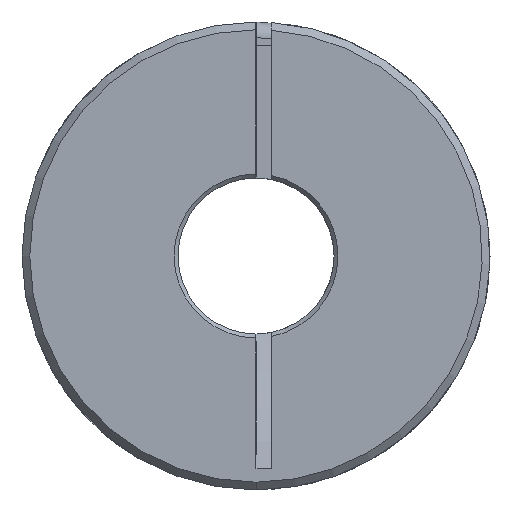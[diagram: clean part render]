
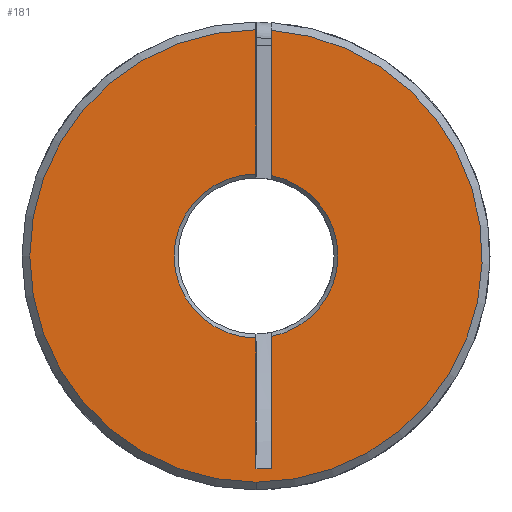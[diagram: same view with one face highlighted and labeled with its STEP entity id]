
A CAD part, left-side view. The second image highlights one B-rep face of the part: STEP entity #181.
In plain terms, the highlighted planar face has unit normal (-1, 0, 0) as drawn and (0, 0, 1) by its records, which use the part's own axes.
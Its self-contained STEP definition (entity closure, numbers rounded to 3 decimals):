
#54 = AXIS2_PLACEMENT_3D ( 'NONE', #1864, #4016, #2174 ) ;
#56 = AXIS2_PLACEMENT_3D ( 'NONE', #102, #2330, #420 ) ;
#87 = DIRECTION ( 'NONE',  ( 1., 0., 0. ) ) ;
#102 = CARTESIAN_POINT ( 'NONE',  ( 0., 0., 6. ) ) ;
#107 = VERTEX_POINT ( 'NONE', #920 ) ;
#129 = ORIENTED_EDGE ( 'NONE', *, *, #787, .T. ) ;
#147 = ORIENTED_EDGE ( 'NONE', *, *, #3875, .F. ) ;
#181 = ADVANCED_FACE ( 'NONE', ( #912 ), #2145, .T. ) ;
#195 = DIRECTION ( 'NONE',  ( 0., -1., 0. ) ) ;
#217 = ORIENTED_EDGE ( 'NONE', *, *, #3099, .T. ) ;
#386 = LINE ( 'NONE', #3314, #3719 ) ;
#414 = ORIENTED_EDGE ( 'NONE', *, *, #3468, .T. ) ;
#420 = DIRECTION ( 'NONE',  ( 1., 0., 0. ) ) ;
#466 = DIRECTION ( 'NONE',  ( -1., 0., 0. ) ) ;
#566 = DIRECTION ( 'NONE',  ( 0., 0., 1. ) ) ;
#677 = CARTESIAN_POINT ( 'NONE',  ( 0., 0., 6. ) ) ;
#766 = VECTOR ( 'NONE', #2548, 1000. ) ;
#787 = EDGE_CURVE ( 'NONE', #1925, #3376, #2627, .T. ) ;
#912 = FACE_OUTER_BOUND ( 'NONE', #955, .T. ) ;
#920 = CARTESIAN_POINT ( 'NONE',  ( 14.465, -1., 6. ) ) ;
#941 = DIRECTION ( 'NONE',  ( 0., 0., 1. ) ) ;
#955 = EDGE_LOOP ( 'NONE', ( #1781, #217, #1842, #3928, #147, #2085, #1674, #129, #414 ) ) ;
#1148 = CARTESIAN_POINT ( 'NONE',  ( -13.642, -1., 6. ) ) ;
#1154 = EDGE_CURVE ( 'NONE', #1925, #3234, #3873, .T. ) ;
#1213 = VERTEX_POINT ( 'NONE', #3210 ) ;
#1319 = CARTESIAN_POINT ( 'NONE',  ( -13.642, -1., 6. ) ) ;
#1378 = EDGE_CURVE ( 'NONE', #2116, #3897, #2078, .T. ) ;
#1408 = CARTESIAN_POINT ( 'NONE',  ( 5.25, 0., 6. ) ) ;
#1494 = CARTESIAN_POINT ( 'NONE',  ( -5.154, -1., 6. ) ) ;
#1610 = VECTOR ( 'NONE', #466, 1000. ) ;
#1674 = ORIENTED_EDGE ( 'NONE', *, *, #1154, .F. ) ;
#1690 = DIRECTION ( 'NONE',  ( -1., 0., 0. ) ) ;
#1781 = ORIENTED_EDGE ( 'NONE', *, *, #3998, .T. ) ;
#1835 = DIRECTION ( 'NONE',  ( 1., 0., 0. ) ) ;
#1842 = ORIENTED_EDGE ( 'NONE', *, *, #3605, .T. ) ;
#1864 = CARTESIAN_POINT ( 'NONE',  ( 0., 0., 6. ) ) ;
#1925 = VERTEX_POINT ( 'NONE', #2119 ) ;
#1933 = VERTEX_POINT ( 'NONE', #1494 ) ;
#1981 = CARTESIAN_POINT ( 'NONE',  ( 5.154, -1., 6. ) ) ;
#1991 = DIRECTION ( 'NONE',  ( 0., 0., 1. ) ) ;
#2073 = EDGE_CURVE ( 'NONE', #1213, #3234, #2700, .T. ) ;
#2078 = LINE ( 'NONE', #1148, #3623 ) ;
#2085 = ORIENTED_EDGE ( 'NONE', *, *, #2073, .T. ) ;
#2116 = VERTEX_POINT ( 'NONE', #3755 ) ;
#2119 = CARTESIAN_POINT ( 'NONE',  ( 14.5, 0., 6. ) ) ;
#2145 = PLANE ( 'NONE',  #3275 ) ;
#2174 = DIRECTION ( 'NONE',  ( 1., 0., 0. ) ) ;
#2237 = CARTESIAN_POINT ( 'NONE',  ( 0., 0., 6. ) ) ;
#2330 = DIRECTION ( 'NONE',  ( 0., 0., -1. ) ) ;
#2449 = LINE ( 'NONE', #2237, #766 ) ;
#2456 = AXIS2_PLACEMENT_3D ( 'NONE', #2810, #941, #3127 ) ;
#2514 = VERTEX_POINT ( 'NONE', #1981 ) ;
#2548 = DIRECTION ( 'NONE',  ( -1., 0., 0. ) ) ;
#2627 = CIRCLE ( 'NONE', #3638, 14.5 ) ;
#2700 = CIRCLE ( 'NONE', #54, 5.25 ) ;
#2810 = CARTESIAN_POINT ( 'NONE',  ( 0., 0., 6. ) ) ;
#2864 = DIRECTION ( 'NONE',  ( -1., 0., 0. ) ) ;
#2946 = CIRCLE ( 'NONE', #2456, 14.5 ) ;
#2982 = CARTESIAN_POINT ( 'NONE',  ( 0., -1., 6. ) ) ;
#3062 = VECTOR ( 'NONE', #2864, 1000. ) ;
#3099 = EDGE_CURVE ( 'NONE', #2514, #1933, #3768, .T. ) ;
#3127 = DIRECTION ( 'NONE',  ( 1., 0., 0. ) ) ;
#3210 = CARTESIAN_POINT ( 'NONE',  ( -5.25, 0., 6. ) ) ;
#3234 = VERTEX_POINT ( 'NONE', #1408 ) ;
#3261 = LINE ( 'NONE', #2982, #1610 ) ;
#3275 = AXIS2_PLACEMENT_3D ( 'NONE', #3383, #566, #1835 ) ;
#3314 = CARTESIAN_POINT ( 'NONE',  ( 0., -1., 6. ) ) ;
#3376 = VERTEX_POINT ( 'NONE', #3997 ) ;
#3383 = CARTESIAN_POINT ( 'NONE',  ( 0., 0., 6. ) ) ;
#3468 = EDGE_CURVE ( 'NONE', #3376, #107, #2946, .T. ) ;
#3605 = EDGE_CURVE ( 'NONE', #1933, #3897, #386, .T. ) ;
#3623 = VECTOR ( 'NONE', #195, 1000. ) ;
#3638 = AXIS2_PLACEMENT_3D ( 'NONE', #3845, #1991, #87 ) ;
#3719 = VECTOR ( 'NONE', #1690, 1000. ) ;
#3755 = CARTESIAN_POINT ( 'NONE',  ( -13.642, 0., 6. ) ) ;
#3768 = CIRCLE ( 'NONE', #56, 5.25 ) ;
#3845 = CARTESIAN_POINT ( 'NONE',  ( 0., 0., 6. ) ) ;
#3873 = LINE ( 'NONE', #677, #3062 ) ;
#3875 = EDGE_CURVE ( 'NONE', #1213, #2116, #2449, .T. ) ;
#3897 = VERTEX_POINT ( 'NONE', #1319 ) ;
#3928 = ORIENTED_EDGE ( 'NONE', *, *, #1378, .F. ) ;
#3997 = CARTESIAN_POINT ( 'NONE',  ( -14.5, 0., 6. ) ) ;
#3998 = EDGE_CURVE ( 'NONE', #107, #2514, #3261, .T. ) ;
#4016 = DIRECTION ( 'NONE',  ( 0., 0., -1. ) ) ;
